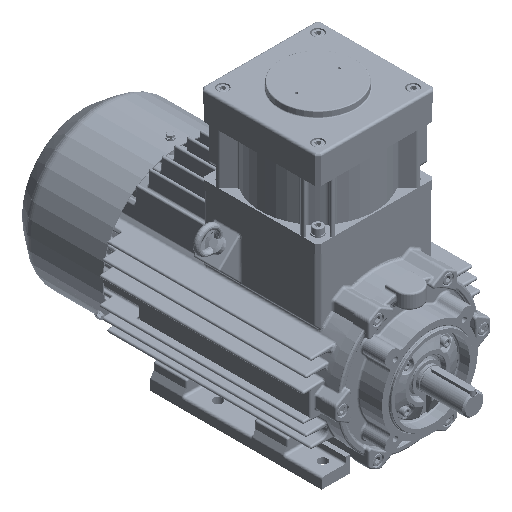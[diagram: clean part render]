
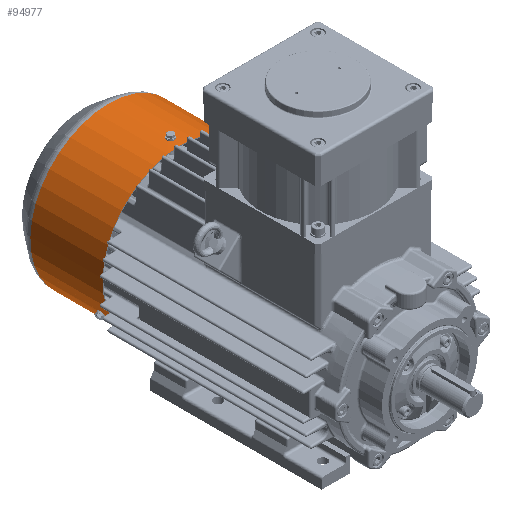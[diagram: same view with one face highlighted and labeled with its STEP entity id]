
A CAD part, isometric view. The second image highlights one B-rep face of the part: STEP entity #94977.
In plain terms, the highlighted cylindrical face has radius 105 mm (diameter 210 mm), a partial arc.
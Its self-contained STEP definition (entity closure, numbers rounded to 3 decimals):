
#1894=B_SPLINE_CURVE_WITH_KNOTS('',3,(#152924,#152925,#152926,#152927,#152928,
#152929,#152930),.UNSPECIFIED.,.F.,.F.,(4,1,1,1,4),(0.,0.002,
0.004,0.006,0.008),
 .UNSPECIFIED.);
#1895=B_SPLINE_CURVE_WITH_KNOTS('',3,(#152932,#152933,#152934,#152935,#152936,
#152937,#152938),.UNSPECIFIED.,.F.,.F.,(4,1,1,1,4),(0.,0.002,
0.004,0.006,0.008),
 .UNSPECIFIED.);
#1898=B_SPLINE_CURVE_WITH_KNOTS('',3,(#152967,#152968,#152969,#152970,#152971,
#152972,#152973),.UNSPECIFIED.,.F.,.F.,(4,1,1,1,4),(0.,
0.002,0.004,0.006,0.008),
 .UNSPECIFIED.);
#1900=B_SPLINE_CURVE_WITH_KNOTS('',3,(#152990,#152991,#152992,#152993,#152994,
#152995,#152996),.UNSPECIFIED.,.F.,.F.,(4,1,1,1,4),(0.,
0.002,0.004,0.006,0.008),
 .UNSPECIFIED.);
#1902=B_SPLINE_CURVE_WITH_KNOTS('',3,(#153037,#153038,#153039,#153040,#153041,
#153042,#153043),.UNSPECIFIED.,.F.,.F.,(4,1,1,1,4),(0.,
0.002,0.004,0.006,0.008),
 .UNSPECIFIED.);
#1904=B_SPLINE_CURVE_WITH_KNOTS('',3,(#153055,#153056,#153057,#153058,#153059,
#153060,#153061),.UNSPECIFIED.,.F.,.F.,(4,1,1,1,4),(0.,0.002,
0.004,0.006,0.008),
 .UNSPECIFIED.);
#3770=CYLINDRICAL_SURFACE('',#102502,105.);
#7465=CIRCLE('',#102468,105.);
#7467=CIRCLE('',#102471,105.);
#7471=CIRCLE('',#102481,105.);
#7473=CIRCLE('',#102484,105.);
#7477=CIRCLE('',#102490,105.);
#7479=CIRCLE('',#102493,105.);
#7481=CIRCLE('',#102498,105.);
#7483=CIRCLE('',#102503,105.);
#22883=ORIENTED_EDGE('',*,*,#36648,.T.);
#22884=ORIENTED_EDGE('',*,*,#36650,.T.);
#22885=ORIENTED_EDGE('',*,*,#36645,.T.);
#22886=ORIENTED_EDGE('',*,*,#36642,.T.);
#22887=ORIENTED_EDGE('',*,*,#36612,.T.);
#22888=ORIENTED_EDGE('',*,*,#36605,.T.);
#22889=ORIENTED_EDGE('',*,*,#36613,.T.);
#22890=ORIENTED_EDGE('',*,*,#36610,.T.);
#22891=ORIENTED_EDGE('',*,*,#36621,.T.);
#22892=ORIENTED_EDGE('',*,*,#36628,.T.);
#22893=ORIENTED_EDGE('',*,*,#36626,.T.);
#22894=ORIENTED_EDGE('',*,*,#36630,.T.);
#22895=ORIENTED_EDGE('',*,*,#36654,.T.);
#22896=ORIENTED_EDGE('',*,*,#36596,.T.);
#22897=ORIENTED_EDGE('',*,*,#36637,.F.);
#22898=ORIENTED_EDGE('',*,*,#36602,.T.);
#36596=EDGE_CURVE('',#44480,#44478,#49359,.T.);
#36602=EDGE_CURVE('',#44483,#44485,#49362,.T.);
#36605=EDGE_CURVE('',#44489,#44488,#7465,.T.);
#36610=EDGE_CURVE('',#44490,#44493,#7467,.T.);
#36612=EDGE_CURVE('',#44493,#44489,#1894,.T.);
#36613=EDGE_CURVE('',#44488,#44490,#1895,.T.);
#36621=EDGE_CURVE('',#44501,#44500,#1898,.T.);
#36626=EDGE_CURVE('',#44502,#44505,#1900,.T.);
#36628=EDGE_CURVE('',#44500,#44502,#7471,.T.);
#36630=EDGE_CURVE('',#44505,#44501,#7473,.T.);
#36637=EDGE_CURVE('',#44483,#44478,#7477,.T.);
#36642=EDGE_CURVE('',#44510,#44513,#7479,.T.);
#36645=EDGE_CURVE('',#44514,#44510,#1902,.T.);
#36648=EDGE_CURVE('',#44513,#44517,#1904,.T.);
#36650=EDGE_CURVE('',#44517,#44514,#7481,.T.);
#36654=EDGE_CURVE('',#44485,#44480,#7483,.T.);
#44478=VERTEX_POINT('',#152882);
#44480=VERTEX_POINT('',#152885);
#44483=VERTEX_POINT('',#152892);
#44485=VERTEX_POINT('',#152896);
#44488=VERTEX_POINT('',#152903);
#44489=VERTEX_POINT('',#152905);
#44490=VERTEX_POINT('',#152909);
#44493=VERTEX_POINT('',#152914);
#44500=VERTEX_POINT('',#152966);
#44501=VERTEX_POINT('',#152974);
#44502=VERTEX_POINT('',#152978);
#44505=VERTEX_POINT('',#152989);
#44510=VERTEX_POINT('',#153019);
#44513=VERTEX_POINT('',#153024);
#44514=VERTEX_POINT('',#153028);
#44517=VERTEX_POINT('',#153054);
#49359=LINE('',#152884,#54214);
#49362=LINE('',#152897,#54217);
#54214=VECTOR('',#120064,1000.);
#54217=VECTOR('',#120075,1000.);
#60403=EDGE_LOOP('',(#22883,#22884,#22885,#22886));
#60404=EDGE_LOOP('',(#22887,#22888,#22889,#22890));
#60405=EDGE_LOOP('',(#22891,#22892,#22893,#22894));
#60406=EDGE_LOOP('',(#22895,#22896,#22897,#22898));
#65831=FACE_BOUND('',#60403,.T.);
#65832=FACE_BOUND('',#60404,.T.);
#65833=FACE_BOUND('',#60405,.T.);
#65834=FACE_BOUND('',#60406,.T.);
#94977=ADVANCED_FACE('',(#65831,#65832,#65833,#65834),#3770,.T.);
#102468=AXIS2_PLACEMENT_3D('',#152904,#120081,#120082);
#102471=AXIS2_PLACEMENT_3D('',#152915,#120090,#120091);
#102481=AXIS2_PLACEMENT_3D('',#152999,#120116,#120117);
#102484=AXIS2_PLACEMENT_3D('',#153002,#120122,#120123);
#102490=AXIS2_PLACEMENT_3D('',#153015,#120137,#120138);
#102493=AXIS2_PLACEMENT_3D('',#153025,#120146,#120147);
#102498=AXIS2_PLACEMENT_3D('',#153064,#120158,#120159);
#102502=AXIS2_PLACEMENT_3D('',#153138,#120166,#120167);
#102503=AXIS2_PLACEMENT_3D('',#153139,#120168,#120169);
#120064=DIRECTION('',(0.,-1.,0.));
#120075=DIRECTION('',(0.,1.,0.));
#120081=DIRECTION('',(0.,-1.,0.));
#120082=DIRECTION('',(-1.,0.,0.));
#120090=DIRECTION('',(0.,1.,0.));
#120091=DIRECTION('',(1.,0.,0.));
#120116=DIRECTION('',(0.,-1.,0.));
#120117=DIRECTION('',(-1.,0.,0.));
#120122=DIRECTION('',(0.,1.,0.));
#120123=DIRECTION('',(1.,0.,0.));
#120137=DIRECTION('',(0.,-1.,0.));
#120138=DIRECTION('',(1.,0.,0.));
#120146=DIRECTION('',(0.,1.,0.));
#120147=DIRECTION('',(1.,0.,0.));
#120158=DIRECTION('',(0.,-1.,0.));
#120159=DIRECTION('',(-1.,0.,0.));
#120166=DIRECTION('',(0.,-1.,0.));
#120167=DIRECTION('',(1.,0.,0.));
#120168=DIRECTION('',(0.,-1.,0.));
#120169=DIRECTION('',(-1.,0.,0.));
#152882=CARTESIAN_POINT('',(-40.599,295.,-96.833));
#152884=CARTESIAN_POINT('',(-40.599,287.119,-96.833));
#152885=CARTESIAN_POINT('',(-40.599,391.396,-96.833));
#152892=CARTESIAN_POINT('',(40.599,295.,-96.833));
#152896=CARTESIAN_POINT('',(40.599,391.396,-96.833));
#152897=CARTESIAN_POINT('',(40.599,287.119,-96.833));
#152903=CARTESIAN_POINT('',(91.429,307.4,-51.632));
#152904=CARTESIAN_POINT('',(0.,307.4,0.));
#152905=CARTESIAN_POINT('',(90.429,307.4,-53.364));
#152909=CARTESIAN_POINT('',(91.429,312.6,-51.632));
#152914=CARTESIAN_POINT('',(90.429,312.6,-53.364));
#152915=CARTESIAN_POINT('',(0.,312.6,0.));
#152924=CARTESIAN_POINT('',(90.429,312.6,-53.364));
#152925=CARTESIAN_POINT('',(90.079,312.6,-53.955));
#152926=CARTESIAN_POINT('',(89.381,312.037,-55.107));
#152927=CARTESIAN_POINT('',(88.929,310.002,-55.826));
#152928=CARTESIAN_POINT('',(89.38,307.964,-55.109));
#152929=CARTESIAN_POINT('',(90.079,307.4,-53.955));
#152930=CARTESIAN_POINT('',(90.429,307.4,-53.364));
#152932=CARTESIAN_POINT('',(91.429,307.4,-51.632));
#152933=CARTESIAN_POINT('',(91.766,307.4,-51.034));
#152934=CARTESIAN_POINT('',(92.414,307.961,-49.854));
#152935=CARTESIAN_POINT('',(92.812,310.001,-49.101));
#152936=CARTESIAN_POINT('',(92.415,312.036,-49.852));
#152937=CARTESIAN_POINT('',(91.766,312.6,-51.034));
#152938=CARTESIAN_POINT('',(91.429,312.6,-51.632));
#152966=CARTESIAN_POINT('',(-91.429,307.4,-51.632));
#152967=CARTESIAN_POINT('',(-91.429,312.6,-51.632));
#152968=CARTESIAN_POINT('',(-91.766,312.6,-51.033));
#152969=CARTESIAN_POINT('',(-92.415,312.037,-49.853));
#152970=CARTESIAN_POINT('',(-92.811,310.002,-49.101));
#152971=CARTESIAN_POINT('',(-92.416,307.964,-49.851));
#152972=CARTESIAN_POINT('',(-91.766,307.4,-51.033));
#152973=CARTESIAN_POINT('',(-91.429,307.4,-51.632));
#152974=CARTESIAN_POINT('',(-91.429,312.6,-51.632));
#152978=CARTESIAN_POINT('',(-90.429,307.4,-53.364));
#152989=CARTESIAN_POINT('',(-90.429,312.6,-53.364));
#152990=CARTESIAN_POINT('',(-90.429,307.4,-53.364));
#152991=CARTESIAN_POINT('',(-90.08,307.4,-53.955));
#152992=CARTESIAN_POINT('',(-89.382,307.961,-55.106));
#152993=CARTESIAN_POINT('',(-88.928,310.001,-55.827));
#152994=CARTESIAN_POINT('',(-89.38,312.036,-55.108));
#152995=CARTESIAN_POINT('',(-90.08,312.6,-53.955));
#152996=CARTESIAN_POINT('',(-90.429,312.6,-53.364));
#152999=CARTESIAN_POINT('',(0.,307.4,0.));
#153002=CARTESIAN_POINT('',(0.,312.6,0.));
#153015=CARTESIAN_POINT('',(0.,295.,0.));
#153019=CARTESIAN_POINT('',(-1.,312.6,104.995));
#153024=CARTESIAN_POINT('',(1.,312.6,104.995));
#153025=CARTESIAN_POINT('',(0.,312.6,0.));
#153028=CARTESIAN_POINT('',(-1.,307.4,104.995));
#153037=CARTESIAN_POINT('',(-1.,307.4,104.995));
#153038=CARTESIAN_POINT('',(-1.687,307.4,104.989));
#153039=CARTESIAN_POINT('',(-3.032,307.961,104.96));
#153040=CARTESIAN_POINT('',(-3.883,310.001,104.928));
#153041=CARTESIAN_POINT('',(-3.035,312.036,104.96));
#153042=CARTESIAN_POINT('',(-1.687,312.6,104.989));
#153043=CARTESIAN_POINT('',(-1.,312.6,104.995));
#153054=CARTESIAN_POINT('',(1.,307.4,104.995));
#153055=CARTESIAN_POINT('',(1.,312.6,104.995));
#153056=CARTESIAN_POINT('',(1.687,312.6,104.989));
#153057=CARTESIAN_POINT('',(3.034,312.037,104.96));
#153058=CARTESIAN_POINT('',(3.883,310.002,104.928));
#153059=CARTESIAN_POINT('',(3.036,307.964,104.96));
#153060=CARTESIAN_POINT('',(1.687,307.4,104.989));
#153061=CARTESIAN_POINT('',(1.,307.4,104.995));
#153064=CARTESIAN_POINT('',(0.,307.4,0.));
#153138=CARTESIAN_POINT('',(0.,287.119,0.));
#153139=CARTESIAN_POINT('',(0.,391.396,0.));
